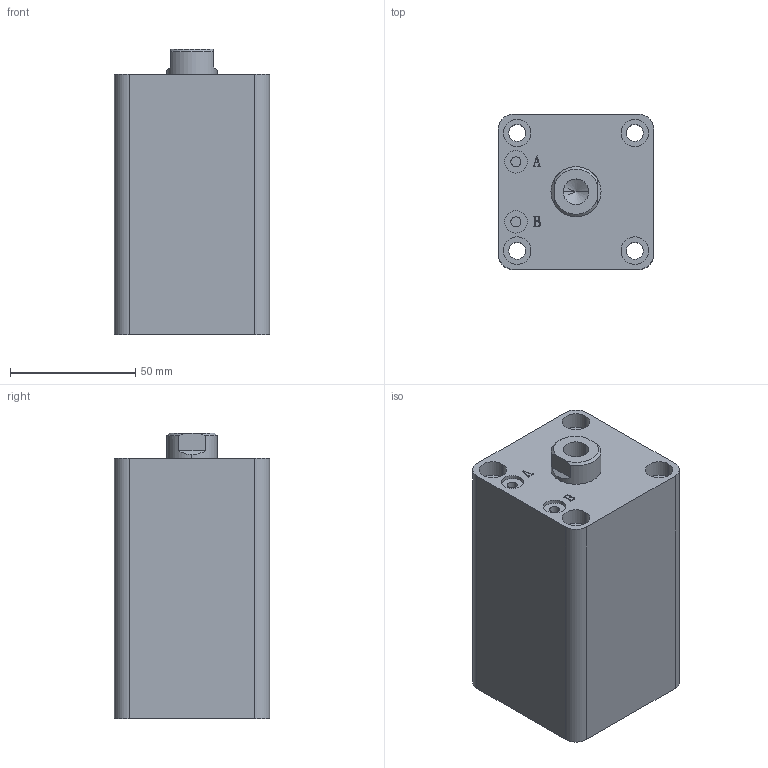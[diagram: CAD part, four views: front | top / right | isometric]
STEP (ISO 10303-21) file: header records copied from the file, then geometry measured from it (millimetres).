
FILE_DESCRIPTION (( 'STEP AP203' ), '1' );
FILE_NAME ('HTB-SDMA32-50N.STEP', '2019-10-07T11:41:28', ( '微软用户' ), ( '微软中国' ), 'SwSTEP 2.0', 'SolidWorks 2012', '' );
FILE_SCHEMA (( 'CONFIG_CONTROL_DESIGN' ));
Length unit declared in the file: millimetre
Products named in the file (3): HTB-SDMA32-50N; HTB-SDMA32-50N活塞杆; HTB-SDMA32-50掛极
Assembly tree (2 placements, depth 2):
  HTB-SDMA32-50N
    HTB-SDMA32-50掛极
    HTB-SDMA32-50N活塞杆
Bounding box: 62 x 62 x 114 mm (x, y, z)
Volume: 354906.5 mm3; surface area: 60767.2 mm2
Topology: 2 solids, 2 shells, 137 faces, 331 edges, 217 vertices
Faces by surface type: plane 65, cylinder 46, bspline 16, torus 6, cone 4
Entity records: 5070 total; most frequent: CARTESIAN_POINT 1576, ORIENTED_EDGE 658, DIRECTION 647, EDGE_CURVE 329, AXIS2_PLACEMENT_3D 232, VERTEX_POINT 217, VECTOR 183, LINE 183
